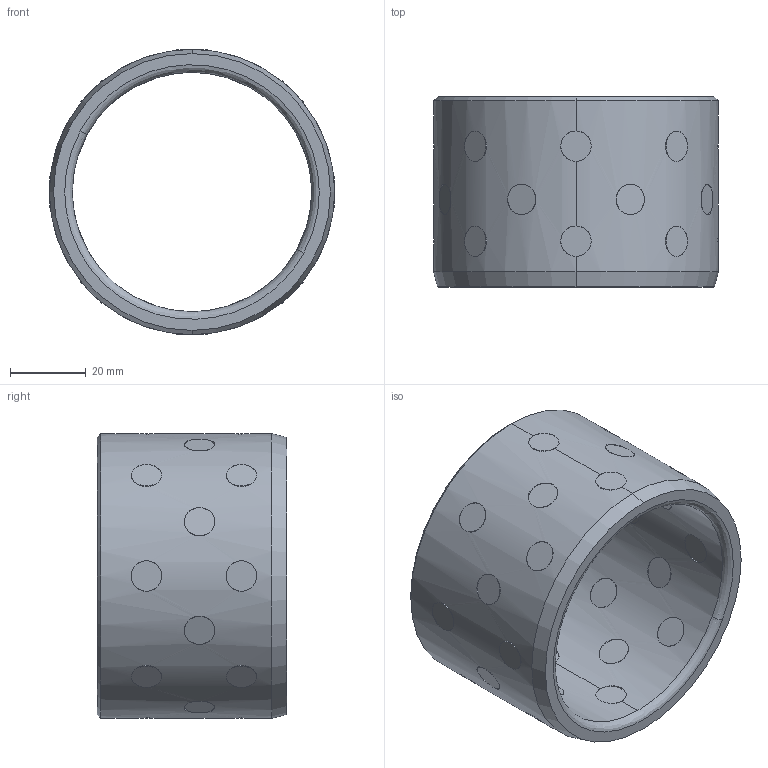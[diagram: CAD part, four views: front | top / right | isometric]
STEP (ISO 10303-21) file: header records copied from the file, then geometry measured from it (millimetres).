
FILE_DESCRIPTION (( 'STEP AP214' ), '1' );
FILE_NAME ('D30.04_635075.step', '2011-12-24T20:11:36', ( 'Dell' ), ( '' ), 'SwSTEP 2.0', 'SolidWorks 2010', '' );
FILE_SCHEMA (( 'AUTOMOTIVE_DESIGN' ));
Length unit declared in the file: millimetre
Products named in the file (5): D30.04_635075; 1_9_Varsayýlan; Gathered Part15 on CircPattern.11_9_Varsayýlan; Part15_9_Varsayýlan; Gathered Part15 on CircPattern.2_9_Varsayýlan
Assembly tree (28 placements, depth 3):
  D30.04_635075
    1_9_Varsayýlan
    Part15_9_Varsayýlan  x3
    Gathered Part15 on CircPattern.11_9_Varsayýlan
      Part15_9_Varsayýlan  x15
    Gathered Part15 on CircPattern.2_9_Varsayýlan
      Part15_9_Varsayýlan  x7
Bounding box: 75 x 50 x 75 mm (x, y, z)
Volume: 64330.8 mm3; surface area: 31067.8 mm2
Topology: 26 solids, 26 shells, 162 faces, 350 edges, 232 vertices
Faces by surface type: cylinder 102, plane 52, bspline 4, cone 4
Entity records: 5942 total; most frequent: CARTESIAN_POINT 3917, ORIENTED_EDGE 412, DIRECTION 304, EDGE_CURVE 206, VERTEX_POINT 136, AXIS2_PLACEMENT_3D 119, B_SPLINE_CURVE_WITH_KNOTS 114, EDGE_LOOP 108
